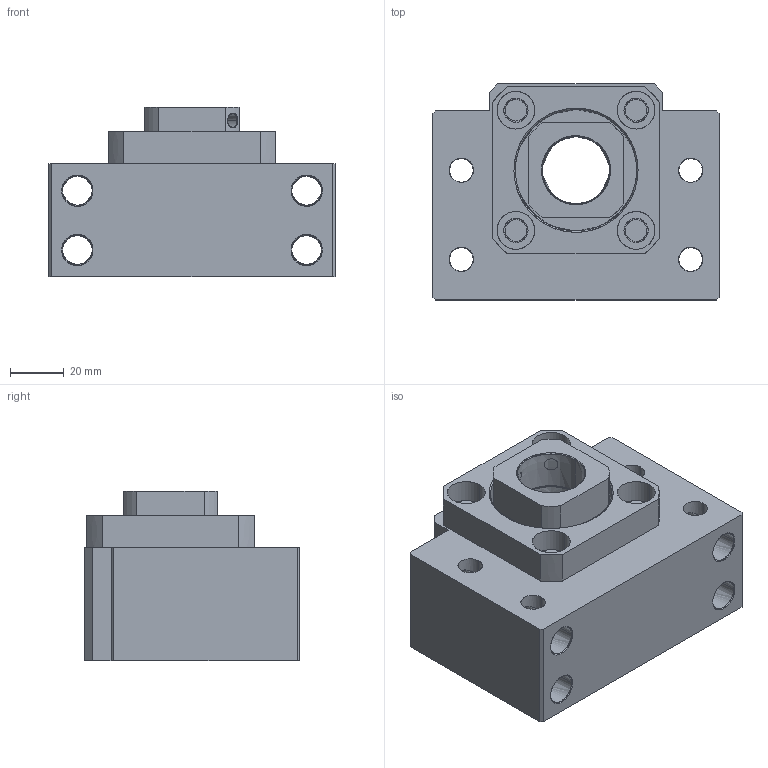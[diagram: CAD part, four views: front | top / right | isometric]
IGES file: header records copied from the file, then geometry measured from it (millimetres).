
Start section: --------------------------------------------------------------------- IGES file generated by CADlook_v7.0.  Visit http://www.cadlook.com for more information on CADlook translators and viewers. ---------------------------------------------------------------------
Global section: file name: C:\Solid\Stp\bk25.igs; native system: Cimatron E by Cimatron Inc.; preprocessor: CADlook_v7.0; author: None; organization: None; date: 20041117.154508; units: millimetre
Bounding box: 106 x 80 x 63 mm (x, y, z)
Surface area: 81748.5 mm2 (no closed solid volume)
Topology: 0 solids, 0 shells, 223 faces, 2305 edges, 2819 vertices
Faces by surface type: bspline 117, revolution 106
